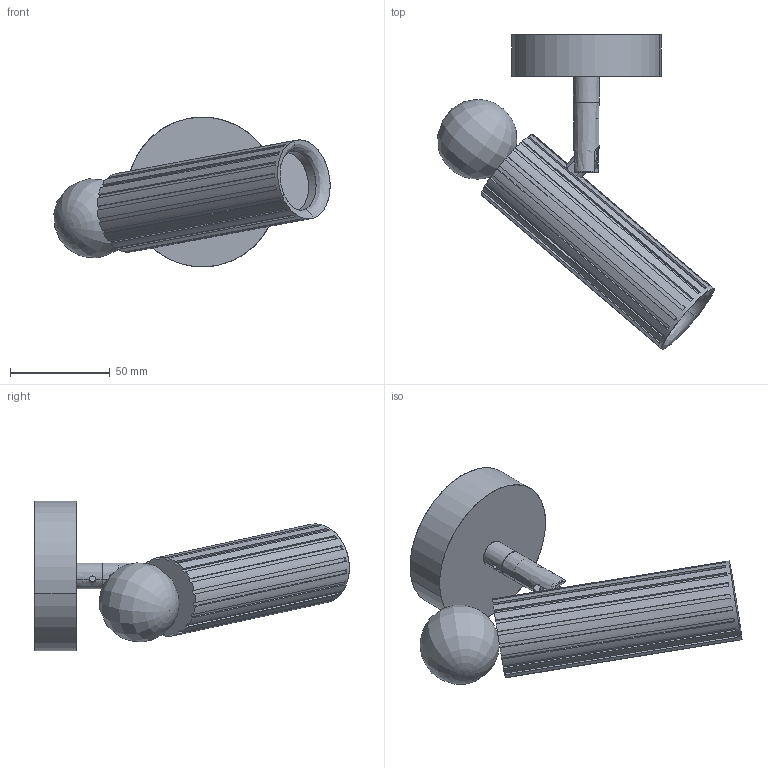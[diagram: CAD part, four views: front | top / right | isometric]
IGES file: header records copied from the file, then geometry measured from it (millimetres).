
Start section: SolidWorks IGES file using analytic representation for surfaces
Global section: file name: C:\Users\adrian\Desktop\AROA\diseño nuevo producto\tecnico\BELLA T0341\FOCO2_ROTULA.IGS; native system: SolidWorks 2023; preprocessor: SolidWorks 2023; author: adrian; date: 260828.112557; units: millimetre
Bounding box: 138.38 x 157.64 x 74.95 mm (x, y, z)
Surface area: 57531.6 mm2 (no closed solid volume)
Topology: 0 solids, 0 shells, 279 faces, 3629 edges, 3627 vertices
Faces by surface type: bspline 149, revolution 130
